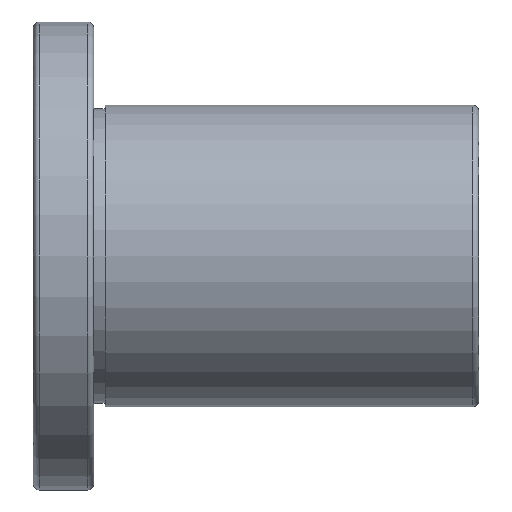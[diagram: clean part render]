
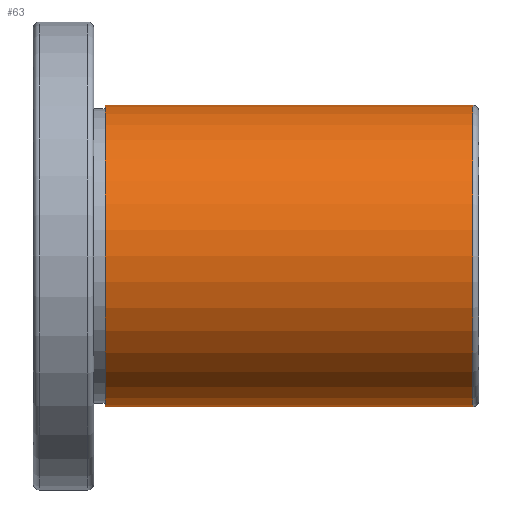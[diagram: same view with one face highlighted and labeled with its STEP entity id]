
A CAD part, front view. The second image highlights one B-rep face of the part: STEP entity #63.
In plain terms, the highlighted cylindrical face has radius 20 mm (diameter 40 mm), a full revolution.
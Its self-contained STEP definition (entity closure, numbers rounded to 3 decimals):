
#63 = ADVANCED_FACE( '', ( #146, #147 ), #148, .T. );
#146 = FACE_OUTER_BOUND( '', #269, .T. );
#147 = FACE_OUTER_BOUND( '', #270, .T. );
#148 = CYLINDRICAL_SURFACE( '', #271, 20. );
#269 = EDGE_LOOP( '', ( #398 ) );
#270 = EDGE_LOOP( '', ( #399 ) );
#271 = AXIS2_PLACEMENT_3D( '', #400, #401, #402 );
#398 = ORIENTED_EDGE( '', *, *, #549, .F. );
#399 = ORIENTED_EDGE( '', *, *, #550, .T. );
#400 = CARTESIAN_POINT( '', ( 33.4, 0., 0. ) );
#401 = DIRECTION( '', ( -1., 0., 0. ) );
#402 = DIRECTION( '', ( 0., 1., 0. ) );
#549 = EDGE_CURVE( '', #618, #618, #619, .F. );
#550 = EDGE_CURVE( '', #620, #620, #621, .F. );
#618 = VERTEX_POINT( '', #707 );
#619 = CIRCLE( '', #708, 20. );
#620 = VERTEX_POINT( '', #709 );
#621 = CIRCLE( '', #710, 20. );
#707 = CARTESIAN_POINT( '', ( 9.5, 0., -20. ) );
#708 = AXIS2_PLACEMENT_3D( '', #800, #801, #802 );
#709 = CARTESIAN_POINT( '', ( 58.2, 20., 0. ) );
#710 = AXIS2_PLACEMENT_3D( '', #803, #804, #805 );
#800 = CARTESIAN_POINT( '', ( 9.5, 0., 0. ) );
#801 = DIRECTION( '', ( 1., 0., 0. ) );
#802 = DIRECTION( '', ( 0., 0., -1. ) );
#803 = CARTESIAN_POINT( '', ( 58.2, 0., 0. ) );
#804 = DIRECTION( '', ( 1., 0., 0. ) );
#805 = DIRECTION( '', ( 0., 0., -1. ) );
